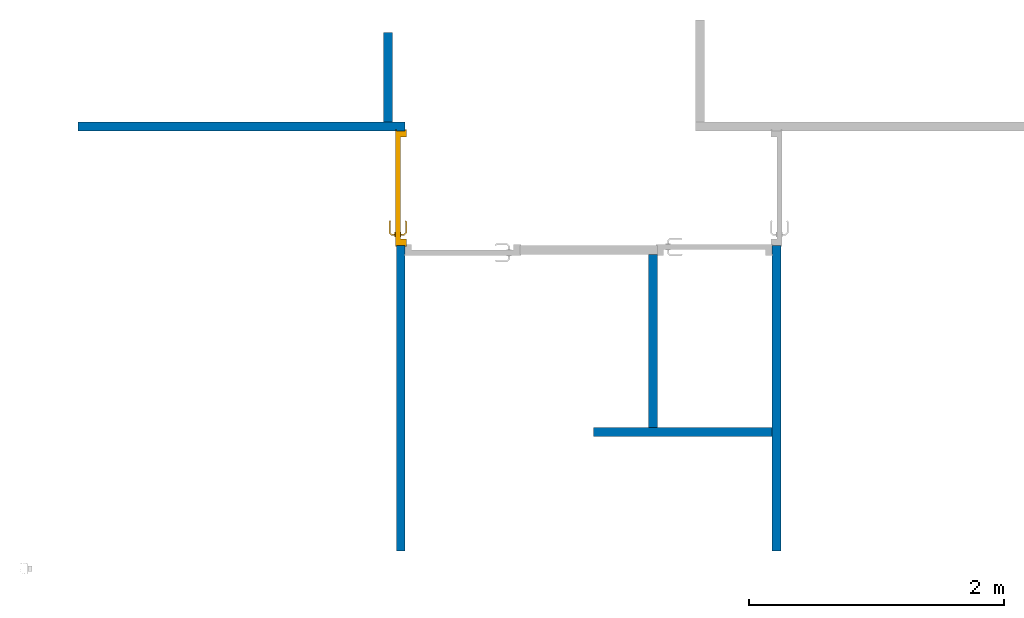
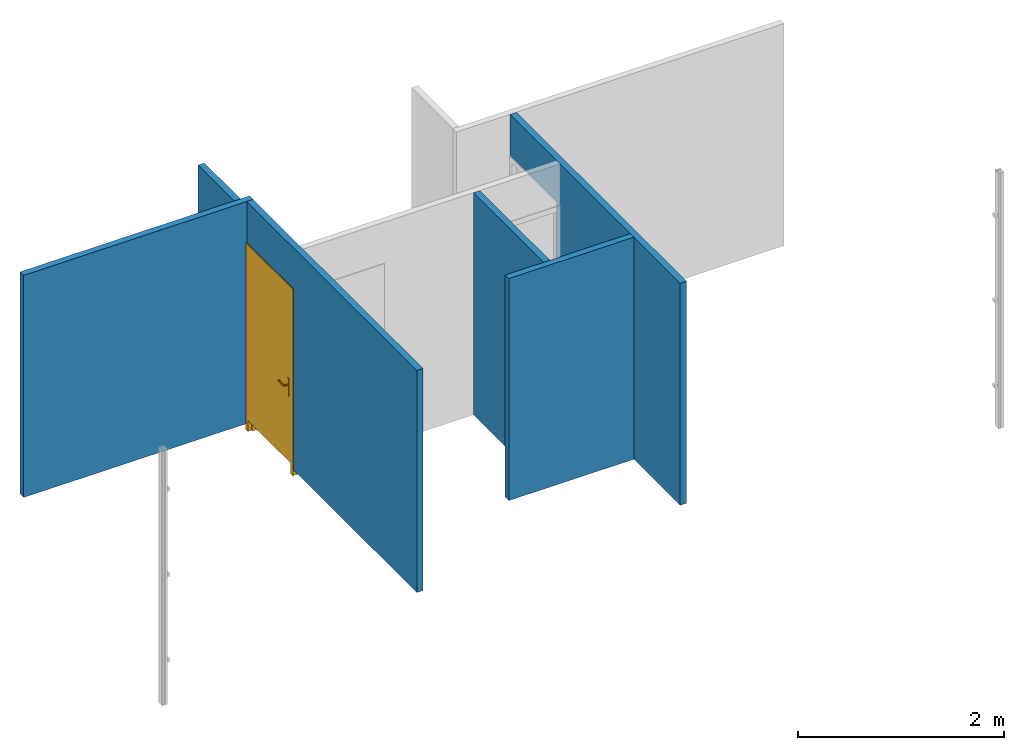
"""IFC2X3 building model written with IfcOpenShell, lengths in metres."""

from ifc_helpers import new_model, entity, si_unit, converted_unit, derived_unit, direction, frame, frame_2d, origin, place, context, subcontext, project, spatial, rectangle, extrude, faceted_brep, source, transform, mapped, material, material_list, layer, layer_set, layer_usage, type_object, type_shapes, element, fill, save


model = new_model("IFC2X3")

# Units and contexts
model_context = context("Model", 3, precision=1e-05, world=origin(), true_north=direction((6.123031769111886e-17, 1.0)))
body_context = subcontext(model_context, "Body", "Model", "MODEL_VIEW")
ifc_project = project(units=[si_unit("LENGTHUNIT", "METRE"), si_unit("AREAUNIT", "SQUARE_METRE"), si_unit("VOLUMEUNIT", "CUBIC_METRE"), converted_unit("PLANEANGLEUNIT", "DEGREE", entity("IfcRatioMeasure", 0.017453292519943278), si_unit("PLANEANGLEUNIT", "RADIAN"), dimensions=[0, 0, 0, 0, 0, 0, 0]), si_unit("MASSUNIT", "GRAM", prefix="KILO"), derived_unit("MASSDENSITYUNIT", [(si_unit("MASSUNIT", "GRAM", prefix="KILO"), 1), (si_unit("LENGTHUNIT", "METRE"), -3)]), derived_unit("IONCONCENTRATIONUNIT", [(si_unit("MASSUNIT", "GRAM", prefix="KILO"), 1), (si_unit("LENGTHUNIT", "METRE"), -3)]), derived_unit("MOMENTOFINERTIAUNIT", [(si_unit("LENGTHUNIT", "METRE"), 4)]), si_unit("TIMEUNIT", "SECOND"), si_unit("FREQUENCYUNIT", "HERTZ"), si_unit("THERMODYNAMICTEMPERATUREUNIT", "DEGREE_CELSIUS"), derived_unit("THERMALTRANSMITTANCEUNIT", [(si_unit("MASSUNIT", "GRAM", prefix="KILO"), 1), (si_unit("THERMODYNAMICTEMPERATUREUNIT", "KELVIN"), -1), (si_unit("TIMEUNIT", "SECOND"), -3)]), derived_unit("THERMALCONDUCTANCEUNIT", [(si_unit("MASSUNIT", "GRAM", prefix="KILO"), 1), (si_unit("THERMODYNAMICTEMPERATUREUNIT", "KELVIN"), -1), (si_unit("TIMEUNIT", "SECOND"), -3), (si_unit("LENGTHUNIT", "METRE"), 1)]), derived_unit("VOLUMETRICFLOWRATEUNIT", [(si_unit("LENGTHUNIT", "METRE"), 3), (si_unit("TIMEUNIT", "SECOND"), -1)]), derived_unit("MASSFLOWRATEUNIT", [(si_unit("MASSUNIT", "GRAM", prefix="KILO"), 1), (si_unit("TIMEUNIT", "SECOND"), -1)]), derived_unit("ROTATIONALFREQUENCYUNIT", [(si_unit("TIMEUNIT", "SECOND"), -1)]), si_unit("ELECTRICCURRENTUNIT", "AMPERE"), si_unit("ELECTRICVOLTAGEUNIT", "VOLT"), si_unit("POWERUNIT", "WATT"), si_unit("FORCEUNIT", "NEWTON", prefix="KILO"), si_unit("ILLUMINANCEUNIT", "LUX"), si_unit("LUMINOUSFLUXUNIT", "LUMEN"), si_unit("LUMINOUSINTENSITYUNIT", "CANDELA"), derived_unit("USERDEFINED", [(si_unit("MASSUNIT", "GRAM", prefix="KILO"), -1), (si_unit("LENGTHUNIT", "METRE"), -2), (si_unit("TIMEUNIT", "SECOND"), 3), (si_unit("LUMINOUSFLUXUNIT", "LUMEN"), 1)]), derived_unit("USERDEFINED", [(si_unit("MASSUNIT", "GRAM", prefix="KILO"), 1), (si_unit("TIMEUNIT", "SECOND"), -3), (si_unit("LENGTHUNIT", "METRE"), 3), (si_unit("ELECTRICCURRENTUNIT", "AMPERE"), -2)]), derived_unit("SOUNDPOWERUNIT", [(si_unit("MASSUNIT", "GRAM", prefix="KILO"), 1), (si_unit("TIMEUNIT", "SECOND"), -3), (si_unit("LENGTHUNIT", "METRE"), 2)]), derived_unit("SOUNDPRESSUREUNIT", [(si_unit("MASSUNIT", "GRAM", prefix="KILO"), 1), (si_unit("LENGTHUNIT", "METRE"), -1), (si_unit("TIMEUNIT", "SECOND"), -2)]), derived_unit("LINEARVELOCITYUNIT", [(si_unit("LENGTHUNIT", "METRE"), 1), (si_unit("TIMEUNIT", "SECOND"), -1)]), si_unit("PRESSUREUNIT", "PASCAL"), derived_unit("USERDEFINED", [(si_unit("MASSUNIT", "GRAM", prefix="KILO"), 1), (si_unit("LENGTHUNIT", "METRE"), -2), (si_unit("TIMEUNIT", "SECOND"), -2)]), derived_unit("LINEARFORCEUNIT", [(si_unit("MASSUNIT", "GRAM", prefix="KILO"), 1), (si_unit("TIMEUNIT", "SECOND"), -2)]), derived_unit("PLANARFORCEUNIT", [(si_unit("MASSUNIT", "GRAM", prefix="KILO"), 1), (si_unit("LENGTHUNIT", "METRE"), -1), (si_unit("TIMEUNIT", "SECOND"), -2)]), derived_unit("SPECIFICHEATCAPACITYUNIT", [(si_unit("THERMODYNAMICTEMPERATUREUNIT", "KELVIN"), -1), (si_unit("LENGTHUNIT", "METRE"), 2), (si_unit("TIMEUNIT", "SECOND"), -2)]), derived_unit("HEATINGVALUEUNIT", [(si_unit("LENGTHUNIT", "METRE"), 2), (si_unit("TIMEUNIT", "SECOND"), -2)]), derived_unit("VAPORPERMEABILITYUNIT", [(si_unit("LENGTHUNIT", "METRE"), -1), (si_unit("TIMEUNIT", "SECOND"), 1)]), derived_unit("DYNAMICVISCOSITYUNIT", [(si_unit("MASSUNIT", "GRAM", prefix="KILO"), 1), (si_unit("TIMEUNIT", "SECOND"), -1), (si_unit("LENGTHUNIT", "METRE"), -1)]), derived_unit("THERMALEXPANSIONCOEFFICIENTUNIT", [(si_unit("THERMODYNAMICTEMPERATUREUNIT", "KELVIN"), -1)]), derived_unit("MODULUSOFELASTICITYUNIT", [(si_unit("MASSUNIT", "GRAM", prefix="KILO"), 1), (si_unit("LENGTHUNIT", "METRE"), -1), (si_unit("TIMEUNIT", "SECOND"), -2)]), derived_unit("ISOTHERMALMOISTURECAPACITYUNIT", [(si_unit("LENGTHUNIT", "METRE"), 3), (si_unit("MASSUNIT", "GRAM", prefix="KILO"), -1)]), derived_unit("MOISTUREDIFFUSIVITYUNIT", [(si_unit("TIMEUNIT", "SECOND"), -1), (si_unit("LENGTHUNIT", "METRE"), 2)])], contexts=[model_context])

# Site, building, storey
site_placement = place(None, frame((1.2553507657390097, -0.6266432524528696, -1.0397761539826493), z_axis=(0.0, 0.0, 1.0), x_axis=(-1.0, 0.0, 0.0)))
site = spatial("IfcSite", under=ifc_project, at=site_placement, Name="Default", CompositionType="ELEMENT")
building_placement = place(site_placement, origin())
building = spatial("IfcBuilding", under=site, at=building_placement, Name="MAISON D'HABITATION", CompositionType="ELEMENT")
storey_1_placement = place(building_placement, frame((0.0, 0.0, 0.9097761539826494)))
storey_1 = spatial("IfcBuildingStorey", under=building, at=storey_1_placement, Name="Niveau Dalle ↑", CompositionType="ELEMENT", Elevation=0.9097761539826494)

# Wall, opening
ifc_material_1 = material(Name="Peinture")
ifc_layer_1 = layer(ifc_material_1, 0.007)
ifc_material_2 = material(Name="Plaque de mur de gypse")
ifc_layer_2 = layer(ifc_material_2, 0.013)
ifc_material_3 = material(Name="Isolation")
ifc_layer_3 = layer(ifc_material_3, 0.03)
ifc_layer_4 = layer(ifc_material_2, 0.013)
ifc_layer_5 = layer(ifc_material_1, 0.007)
ifc_layer_set = layer_set([ifc_layer_1, ifc_layer_2, ifc_layer_3, ifc_layer_4, ifc_layer_5], Name="Mur de base:mur interieur 7 cm")
ifc_layer_usage = layer_usage(ifc_layer_set, "AXIS2", "NEGATIVE", 0.034999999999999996)
wall_type = type_object("IfcWallType", Name="Mur de base:mur interieur 7 cm", PredefinedType="STANDARD", material=ifc_layer_set)
wall_1_placement = place(storey_1_placement, frame((3.98013300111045, -0.3388169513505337, 0.0), z_axis=(0.0, 0.0, 1.0), x_axis=(-1.0, 0.0, 0.0)))
wall_1 = element("IfcWallStandardCase", 1, at=wall_1_placement, inside=storey_1, type_object=wall_type, material=ifc_layer_usage, Name="Mur de base:mur interieur 7 cm", ObjectType="Mur de base:mur interieur 7 cm", context=body_context, shape_type="SweptSolid", body=[
    extrude(rectangle(XDim=2.5700000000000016, YDim=0.07000000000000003, at=frame_2d((1.2850000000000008, 4.5102810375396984e-17), x_axis=(-1.0, 0.0))), origin(), (0.0, 0.0, 1.0), 2.6299999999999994),
])
opening_1_placement = place(wall_1_placement, origin())
element("IfcOpeningElement", 2, at=opening_1_placement, cuts=wall_1, Name="Mur de base:mur interieur 7 cm", ObjectType="Opening", context=body_context, shape_type="SweptSolid", body=[
    extrude(rectangle(XDim=2.224999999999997, YDim=0.07000000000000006, at=frame_2d((-1.3530843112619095e-16, 3.3306690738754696e-16), x_axis=(0.0, 1.0))), frame((2.5349999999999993, -0.9349999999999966, 1.0224999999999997), z_axis=(0.0, 1.0, 0.0), x_axis=(-1.0, 0.0, 0.0)), (0.0, 0.0, 1.0), 0.8999999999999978),
])

# Wall, openings
wall_2_placement = place(storey_1_placement, frame((1.4451330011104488, -0.30381695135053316, 0.0), z_axis=(0.0, 0.0, 1.0), x_axis=(0.0, 1.0, 0.0)))
wall_2 = element("IfcWallStandardCase", 3, at=wall_2_placement, inside=storey_1, type_object=wall_type, material=ifc_layer_usage, Name="Mur de base:mur interieur 7 cm", ObjectType="Mur de base:mur interieur 7 cm", context=body_context, shape_type="SweptSolid", body=[
    extrude(rectangle(XDim=3.3, YDim=0.06999999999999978, at=frame_2d((1.65, 1.2836953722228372e-16), x_axis=(-1.0, 0.0))), origin(), (0.0, 0.0, 1.0), 2.6299999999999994),
])
opening_2_placement = place(wall_2_placement, origin())
element("IfcOpeningElement", 4, at=opening_2_placement, cuts=wall_2, Name="Mur de base:mur interieur 7 cm", ObjectType="Opening", context=body_context, shape_type="SweptSolid", body=[
    extrude(rectangle(XDim=2.224999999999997, YDim=0.06999999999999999, at=frame_2d((3.469446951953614e-17, 0.0), x_axis=(0.0, 1.0))), frame((0.935000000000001, 0.03499999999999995, 1.0225000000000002), z_axis=(0.0, 1.0, 0.0), x_axis=(1.0, 0.0, 0.0)), (0.0, 0.0, 1.0), 0.8999999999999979),
])
opening_3_placement = place(wall_2_placement, frame((0.8999999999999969, 0.03499999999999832, -0.08999999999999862)))
opening_3 = element("IfcOpeningElement", 5, at=opening_3_placement, cuts=wall_2, Name="porte intérieur Simple reservation 13 cm:80 x 204:1", ObjectType="Opening", context=body_context, shape_type="SweptSolid", body=[
    extrude(rectangle(XDim=2.224999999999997, YDim=0.8999999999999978, at=frame_2d((1.1124999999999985, 0.449999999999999), x_axis=(1.0, 0.0))), frame((0.0, 0.0, 0.0), z_axis=(0.0, -1.0, 0.0), x_axis=(0.0, 0.0, 1.0)), (0.0, 0.0, 1.0), 0.06999999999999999),
])

# Storey
storey_2_placement = place(building_placement, frame((0.0, 0.0, 1.0397761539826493)))
storey_2 = spatial("IfcBuildingStorey", under=building, at=storey_2_placement, Name="site", CompositionType="ELEMENT", Elevation=1.0397761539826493)

# Door
ifc_material_4 = material(Name="Poignée Porte")
ifc_material_5 = material(Name="Dormants Portes")
ifc_material_6 = material(Name="Panneaux Portes")
ifc_material_list = material_list([ifc_material_4, ifc_material_5, ifc_material_6])
door_style = type_object("IfcDoorStyle", Name="porte intérieur Simple reservation 13 cm:80 x 204", ConstructionType="NOTDEFINED", OperationType="NOTDEFINED", ParameterTakesPrecedence=False, Sizeable=False, material=ifc_material_list)
shared_shape = source(origin(), body_context, "Body", "Brep", [
    faceted_brep([(0.8129747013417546, 0.03700000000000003, 1.0422195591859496), (0.8170252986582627, 0.03700000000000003, 1.0422195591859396), (0.8210000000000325, 0.03700000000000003, 1.0429999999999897), (0.8210000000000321, 0.03700000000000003, 1.0569999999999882), (0.8170252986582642, 0.03700000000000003, 1.0577804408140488), (0.812974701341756, 0.03700000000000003, 1.0577804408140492), (0.8089999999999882, 0.03700000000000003, 1.0569999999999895), (0.8089999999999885, 0.03700000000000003, 1.0430000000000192), (0.8089999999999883, 0.059485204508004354, 1.0569999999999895), (0.8089999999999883, 0.05948520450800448, 1.0430000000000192), (0.8129747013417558, 0.061131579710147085, 1.0577804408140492), (0.8170252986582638, 0.06280939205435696, 1.0577804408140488), (0.80083890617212, 0.07899578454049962, 1.0577804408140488), (0.7991610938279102, 0.0749451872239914, 1.0577804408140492), (0.7157931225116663, 0.07494518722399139, 1.0577804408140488), (0.7141153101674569, 0.07899578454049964, 1.0577804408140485), (0.7064510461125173, 0.07133152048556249, 1.0577804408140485), (0.7093152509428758, 0.06846731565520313, 1.0577804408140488), (0.8210000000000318, 0.0644557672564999, 1.0569999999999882), (0.8210000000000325, 0.06445576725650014, 1.0429999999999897), (0.8170252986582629, 0.06280939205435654, 1.0422195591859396), (0.8129747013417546, 0.06113157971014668, 1.0422195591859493), (0.7991610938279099, 0.07494518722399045, 1.0422195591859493), (0.8008389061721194, 0.0789957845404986, 1.0422195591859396), (0.7141153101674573, 0.07899578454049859, 1.0422195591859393), (0.7157931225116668, 0.07494518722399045, 1.042219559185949), (0.7093152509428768, 0.06846731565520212, 1.0422195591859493), (0.7064510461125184, 0.07133152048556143, 1.0422195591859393), (0.7975147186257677, 0.070970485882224, 1.0430000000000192), (0.7975147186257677, 0.07097048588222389, 1.0569999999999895), (0.8024852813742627, 0.0829704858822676, 1.0569999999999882), (0.8024852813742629, 0.0829704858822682, 1.0429999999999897), (0.7574771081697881, 0.07097048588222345, 1.056999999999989), (0.7174394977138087, 0.07097048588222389, 1.056999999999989), (0.7174394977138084, 0.07097048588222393, 1.0430000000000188), (0.7574770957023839, 0.07097048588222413, 1.043000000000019), (0.7574771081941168, 0.07712492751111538, 1.0578781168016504), (0.7523994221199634, 0.08297048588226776, 1.0569999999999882), (0.7124689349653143, 0.0829704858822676, 1.056999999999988), (0.7625547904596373, 0.0829704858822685, 1.0429999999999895), (0.712468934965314, 0.0829704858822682, 1.0429999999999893), (0.7574771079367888, 0.07712492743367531, 1.0421218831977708), (0.703640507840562, 0.07414205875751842, 1.0569999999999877), (0.7036405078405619, 0.07414205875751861, 1.0429999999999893), (0.7121257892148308, 0.06565677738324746, 1.0430000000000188), (0.712125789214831, 0.06565677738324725, 1.056999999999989)], [[[0, 1, 2, 3, 4, 5, 6, 7]], [[8, 9, 7, 6]], [[5, 10, 8, 6]], [[5, 4, 11, 12, 13, 10]], [[14, 15, 16, 17]], [[3, 18, 11, 4]], [[18, 3, 2, 19]], [[2, 1, 20, 19]], [[1, 0, 21, 22, 23, 20]], [[24, 25, 26, 27]], [[0, 7, 9, 21]], [[28, 9, 8, 29]], [[8, 10, 13, 29]], [[18, 30, 12, 11]], [[31, 30, 18, 19]], [[19, 20, 23, 31]], [[21, 9, 28, 22]], [[28, 29, 32, 33, 34, 35]], [[36, 32, 13]], [[37, 38, 15]], [[37, 12, 30]], [[36, 12, 37]], [[14, 32, 36]], [[36, 15, 14]], [[29, 13, 32]], [[32, 14, 33]], [[12, 36, 13]], [[15, 36, 37]], [[30, 31, 39, 40, 38, 37]], [[23, 41, 39]], [[24, 39, 41]], [[39, 31, 23]], [[39, 24, 40]], [[22, 35, 41]], [[41, 23, 22]], [[41, 35, 25]], [[35, 22, 28]], [[34, 25, 35]], [[24, 41, 25]], [[17, 16, 42, 43, 27, 26, 44, 45]], [[44, 34, 33, 45]], [[33, 14, 17, 45]], [[15, 38, 42, 16]], [[43, 42, 38, 40]], [[24, 27, 43, 40]], [[34, 44, 26, 25]]]),
    faceted_brep([(0.8129747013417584, -0.012999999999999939, 1.057780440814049), (0.8170252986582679, -0.012999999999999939, 1.0577804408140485), (0.8210000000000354, -0.012999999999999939, 1.0569999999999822), (0.8210000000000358, -0.012999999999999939, 1.0429999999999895), (0.8170252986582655, -0.012999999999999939, 1.0422195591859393), (0.8129747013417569, -0.012999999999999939, 1.0422195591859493), (0.8089999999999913, -0.012999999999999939, 1.0430000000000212), (0.8089999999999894, -0.012999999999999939, 1.0569999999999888), (0.8170252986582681, -0.03900457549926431, 1.0577804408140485), (0.821000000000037, -0.040650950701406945, 1.0569999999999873), (0.8129747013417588, -0.037326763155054, 1.057780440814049), (0.7992986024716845, -0.05100286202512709, 1.057780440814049), (0.8009764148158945, -0.05505345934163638, 1.0577804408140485), (0.7141424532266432, -0.05505345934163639, 1.0577804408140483), (0.7158202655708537, -0.05100286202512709, 1.0577804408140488), (0.7093423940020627, -0.04452499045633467, 1.0577804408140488), (0.7064781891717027, -0.04738919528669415, 1.0577804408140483), (0.8089999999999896, -0.03568038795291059, 1.0569999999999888), (0.8089999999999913, -0.035680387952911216, 1.0430000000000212), (0.8129747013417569, -0.03732676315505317, 1.0422195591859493), (0.8170252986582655, -0.0390045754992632, 1.0422195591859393), (0.8009764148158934, -0.05505345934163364, 1.0422195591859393), (0.7992986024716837, -0.051002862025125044, 1.0422195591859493), (0.7158202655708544, -0.051002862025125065, 1.042219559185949), (0.7141424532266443, -0.05505345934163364, 1.0422195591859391), (0.7064781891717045, -0.047389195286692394, 1.0422195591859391), (0.7093423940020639, -0.0445249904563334, 1.042219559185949), (0.8210000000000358, -0.0406509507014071, 1.0429999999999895), (0.8026227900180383, -0.059028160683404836, 1.0569999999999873), (0.7976522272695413, -0.04702816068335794, 1.0569999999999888), (0.797652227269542, -0.047028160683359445, 1.0430000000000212), (0.8026227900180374, -0.059028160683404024, 1.0429999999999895), (0.7575594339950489, -0.05318280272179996, 1.0578781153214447), (0.76269230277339, -0.059028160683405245, 1.0569999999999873), (0.7124960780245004, -0.059028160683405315, 1.056999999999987), (0.7575594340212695, -0.04702816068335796, 1.0569999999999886), (0.717466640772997, -0.04702816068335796, 1.0569999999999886), (0.7575594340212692, -0.04702816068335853, 1.0430000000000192), (0.7174666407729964, -0.047028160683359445, 1.043000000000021), (0.7575594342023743, -0.05318280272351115, 1.0421218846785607), (0.7524265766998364, -0.05902816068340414, 1.0429999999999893), (0.7124960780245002, -0.059028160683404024, 1.0429999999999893), (0.7121529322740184, -0.04171445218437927, 1.043000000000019), (0.7036676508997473, -0.05019973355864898, 1.0429999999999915), (0.7036676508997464, -0.05019973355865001, 1.0569999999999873), (0.7121529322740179, -0.04171445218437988, 1.0569999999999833)], [[[0, 1, 2, 3, 4, 5, 6, 7]], [[2, 1, 8, 9]], [[1, 0, 10, 11, 12, 8]], [[13, 14, 15, 16]], [[0, 7, 17, 10]], [[18, 17, 7, 6]], [[5, 19, 18, 6]], [[5, 4, 20, 21, 22, 19]], [[23, 24, 25, 26]], [[3, 27, 20, 4]], [[9, 27, 3, 2]], [[9, 8, 12, 28]], [[10, 17, 29, 11]], [[30, 29, 17, 18]], [[18, 19, 22, 30]], [[20, 27, 31, 21]], [[28, 31, 27, 9]], [[12, 32, 33]], [[13, 33, 32]], [[33, 28, 12]], [[33, 13, 34]], [[11, 35, 32]], [[32, 12, 11]], [[32, 35, 14]], [[35, 11, 29]], [[36, 14, 35]], [[13, 32, 14]], [[30, 37, 38, 36, 35, 29]], [[39, 37, 22]], [[40, 41, 24]], [[40, 21, 31]], [[39, 21, 40]], [[23, 37, 39]], [[39, 24, 23]], [[30, 22, 37]], [[37, 23, 38]], [[21, 39, 22]], [[24, 39, 40]], [[31, 28, 33, 34, 41, 40]], [[42, 26, 25, 43, 44, 16, 15, 45]], [[13, 16, 44, 34]], [[36, 45, 15, 14]], [[42, 45, 36, 38]], [[38, 23, 26, 42]], [[24, 41, 43, 25]], [[44, 43, 41, 34]]]),
    faceted_brep([(0.835000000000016, 0.03199999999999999, 0.9200000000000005), (0.8350000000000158, 0.03199999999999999, 1.1299999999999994), (0.8253527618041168, 0.03199999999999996, 1.1339960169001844), (0.8150000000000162, 0.031999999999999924, 1.1353589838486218), (0.8046472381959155, 0.03199999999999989, 1.1339960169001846), (0.7950000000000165, 0.031999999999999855, 1.1299999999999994), (0.7950000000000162, 0.031999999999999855, 0.9199999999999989), (0.8046472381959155, 0.03199999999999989, 0.9160039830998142), (0.8150000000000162, 0.031999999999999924, 0.9146410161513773), (0.8253527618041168, 0.03199999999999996, 0.9160039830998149), (0.8150000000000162, 0.03699999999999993, 1.1353589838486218), (0.8253527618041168, 0.03699999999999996, 1.1339960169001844), (0.8350000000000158, 0.03699999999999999, 1.1299999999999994), (0.8350000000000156, 0.03699999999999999, 0.9200000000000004), (0.8253527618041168, 0.03699999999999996, 0.9160039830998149), (0.8150000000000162, 0.03699999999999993, 0.9146410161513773), (0.8046472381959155, 0.036999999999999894, 0.9160039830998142), (0.7950000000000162, 0.03699999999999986, 0.9199999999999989), (0.7950000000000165, 0.03699999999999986, 1.1299999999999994), (0.8046472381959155, 0.036999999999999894, 1.1339960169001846)], [[[0, 1, 2, 3, 4, 5, 6, 7, 8, 9]], [[10, 11, 12, 13, 14, 15, 16, 17, 18, 19]], [[4, 19, 18, 5]], [[3, 10, 19, 4]], [[2, 11, 10, 3]], [[2, 1, 12, 11]], [[12, 1, 0, 13]], [[9, 14, 13, 0]], [[8, 15, 14, 9]], [[7, 16, 15, 8]], [[7, 6, 17, 16]], [[17, 6, 5, 18]]]),
    faceted_brep([(0.8150000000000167, -0.013000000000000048, 0.9146410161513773), (0.8253527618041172, -0.013000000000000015, 0.916003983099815), (0.8350000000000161, -0.01299999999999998, 0.9200000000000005), (0.835000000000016, -0.01299999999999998, 1.1299999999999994), (0.8253527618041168, -0.013000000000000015, 1.1339960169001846), (0.8150000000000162, -0.013000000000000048, 1.1353589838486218), (0.8046472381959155, -0.013000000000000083, 1.1339960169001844), (0.7950000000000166, -0.013000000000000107, 1.1299999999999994), (0.7950000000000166, -0.013000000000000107, 0.9199999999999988), (0.8046472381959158, -0.013000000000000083, 0.916003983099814), (0.835000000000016, -0.007999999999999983, 1.1299999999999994), (0.8350000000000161, -0.007999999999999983, 0.9200000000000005), (0.8253527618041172, -0.008000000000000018, 0.916003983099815), (0.8150000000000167, -0.00800000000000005, 0.9146410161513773), (0.8046472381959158, -0.008000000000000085, 0.916003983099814), (0.7950000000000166, -0.00800000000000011, 0.9199999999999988), (0.7950000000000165, -0.00800000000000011, 1.1299999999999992), (0.8046472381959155, -0.008000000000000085, 1.1339960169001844), (0.8150000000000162, -0.00800000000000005, 1.1353589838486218), (0.8253527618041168, -0.008000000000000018, 1.1339960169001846)], [[[0, 1, 2, 3, 4, 5, 6, 7, 8, 9]], [[10, 11, 12, 13, 14, 15, 16, 17, 18, 19]], [[1, 12, 11, 2]], [[0, 13, 12, 1]], [[9, 14, 13, 0]], [[9, 8, 15, 14]], [[15, 8, 7, 16]], [[6, 17, 16, 7]], [[5, 18, 17, 6]], [[4, 19, 18, 5]], [[4, 3, 10, 19]], [[10, 3, 2, 11]]]),
    faceted_brep([(0.9000000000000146, 0.0, 0.01999999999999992), (0.9100000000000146, 0.0, 0.01999999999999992), (0.9100000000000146, -0.007999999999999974, 0.01999999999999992), (0.8650000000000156, -0.007999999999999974, 0.01999999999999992), (0.8650000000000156, 0.03200000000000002, 0.01999999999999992), (0.8500000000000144, 0.03200000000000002, 0.01999999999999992), (0.8500000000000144, 0.07799999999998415, 0.01999999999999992), (0.9100000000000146, 0.07799999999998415, 0.01999999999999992), (0.9100000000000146, 0.06999999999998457, 0.01999999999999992), (0.9000000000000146, 0.06999999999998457, 0.01999999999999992), (0.9000000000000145, 0.06999999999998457, 2.224999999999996), (0.9000000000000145, 0.0, 2.224999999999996), (0.9100000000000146, 0.06999999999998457, 2.2349999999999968), (-0.009999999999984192, 0.06999999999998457, 2.2349999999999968), (-0.009999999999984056, 0.06999999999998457, 0.01999999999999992), (0.0, 0.06999999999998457, 0.01999999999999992), (0.0, 0.06999999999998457, 2.224999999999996), (0.9100000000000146, 0.07799999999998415, 2.2349999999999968), (0.8500000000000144, 0.07799999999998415, 2.1749999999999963), (0.050000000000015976, 0.07799999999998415, 2.1749999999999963), (0.050000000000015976, 0.07799999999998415, 0.01999999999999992), (-0.009999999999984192, 0.07799999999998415, 0.01999999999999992), (-0.009999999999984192, 0.07799999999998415, 2.2349999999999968), (0.8500000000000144, 0.03200000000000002, 2.1749999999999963), (0.8650000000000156, 0.03200000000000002, 2.1899999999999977), (0.03500000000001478, 0.03200000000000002, 2.1899999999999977), (0.03500000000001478, 0.03200000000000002, 0.01999999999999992), (0.050000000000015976, 0.03200000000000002, 0.01999999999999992), (0.050000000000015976, 0.03200000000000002, 2.1749999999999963), (0.8650000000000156, -0.007999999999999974, 2.1899999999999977), (0.9100000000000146, -0.007999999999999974, 2.2349999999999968), (-0.009999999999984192, -0.007999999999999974, 2.2349999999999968), (-0.009999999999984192, -0.007999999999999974, 0.01999999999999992), (0.03500000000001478, -0.007999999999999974, 0.01999999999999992), (0.03500000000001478, -0.007999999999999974, 2.1899999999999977), (0.9100000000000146, 0.0, 2.2349999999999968), (0.0, 0.0, 2.2249999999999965), (0.0, 0.0, 0.01999999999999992), (-0.009999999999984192, 0.0, 0.01999999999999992), (-0.009999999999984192, 0.0, 2.2349999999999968)], [[[0, 1, 2, 3, 4, 5, 6, 7, 8, 9]], [[9, 10, 11, 0]], [[8, 12, 13, 14, 15, 16, 10, 9]], [[7, 17, 12, 8]], [[6, 18, 19, 20, 21, 22, 17, 7]], [[5, 23, 18, 6]], [[4, 24, 25, 26, 27, 28, 23, 5]], [[3, 29, 24, 4]], [[2, 30, 31, 32, 33, 34, 29, 3]], [[1, 35, 30, 2]], [[0, 11, 36, 37, 38, 39, 35, 1]], [[16, 15, 37, 36]], [[37, 15, 14, 21, 20, 27, 26, 33, 32, 38]], [[22, 21, 14, 13]], [[28, 27, 20, 19]], [[34, 33, 26, 25]], [[39, 38, 32, 31]], [[10, 16, 36, 11]], [[17, 22, 13, 12]], [[23, 28, 19, 18]], [[29, 34, 25, 24]], [[35, 39, 31, 30]]]),
    faceted_brep([(0.03500000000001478, -0.007999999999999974, 2.1899999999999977), (0.03500000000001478, -0.007999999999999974, 0.14999999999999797), (0.8650000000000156, -0.007999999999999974, 0.14999999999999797), (0.8650000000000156, -0.007999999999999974, 2.1899999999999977), (0.03500000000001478, 0.03200000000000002, 2.1899999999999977), (0.8650000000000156, 0.03200000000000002, 2.1899999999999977), (0.8650000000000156, 0.03200000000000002, 0.14999999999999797), (0.03500000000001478, 0.03200000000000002, 0.14999999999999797)], [[[0, 1, 2, 3]], [[4, 5, 6, 7]], [[3, 5, 4, 0]], [[2, 6, 5, 3]], [[1, 7, 6, 2]], [[0, 4, 7, 1]]]),
])
type_shapes(door_style, [shared_shape])
door_placement = place(opening_3_placement, frame((-0.9000000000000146, -0.06999999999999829, 0.0)))
door = element("IfcDoor", 6, at=door_placement, inside=storey_2, type_object=door_style, material=ifc_material_list, Name="porte intérieur Simple reservation 13 cm:80 x 204", ObjectType="porte intérieur Simple reservation 13 cm:80 x 204", OverallHeight=2.224999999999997, OverallWidth=0.8999999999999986, context=body_context, shape_type="MappedRepresentation", body=[
    mapped(shared_shape, transform((0.0, 0.0, 0.0), scale=1.0)),
])

fill(opening_3, door)

# Wall, openings
wall_3_placement = place(storey_1_placement, frame((-1.504866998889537, -0.30381695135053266, 0.0), z_axis=(0.0, 0.0, 1.0), x_axis=(0.0, 1.0, 0.0)))
wall_3 = element("IfcWallStandardCase", 7, at=wall_3_placement, inside=storey_1, type_object=wall_type, material=ifc_layer_usage, Name="Mur de base:mur interieur 7 cm", ObjectType="Mur de base:mur interieur 7 cm", context=body_context, shape_type="SweptSolid", body=[
    extrude(rectangle(XDim=3.3000000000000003, YDim=0.06999999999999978, at=frame_2d((1.6500000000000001, 3.469446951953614e-18), x_axis=(-1.0, 0.0))), origin(), (0.0, 0.0, 1.0), 2.6299999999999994),
])
opening_4_placement = place(wall_3_placement, origin())
element("IfcOpeningElement", 8, at=opening_4_placement, cuts=wall_3, Name="Mur de base:mur interieur 7 cm", ObjectType="Opening", context=body_context, shape_type="SweptSolid", body=[
    extrude(rectangle(XDim=2.224999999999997, YDim=0.06999999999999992, at=frame_2d((-6.938893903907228e-17, 3.3306690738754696e-16), x_axis=(0.0, 1.0))), frame((0.9350000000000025, -0.9350000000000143, 1.0224999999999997), z_axis=(0.0, 1.0, 0.0), x_axis=(-1.0, 0.0, 0.0)), (0.0, 0.0, 1.0), 0.8999999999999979),
])
opening_5_placement = place(wall_3_placement, frame((0.0, -0.034999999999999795, -0.08999999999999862)))
element("IfcOpeningElement", 9, at=opening_5_placement, cuts=wall_3, Name="porte intérieur Simple reservation 13 cm:80 x 204:1", ObjectType="Opening", context=body_context, shape_type="SweptSolid", body=[
    extrude(rectangle(XDim=2.224999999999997, YDim=0.8999999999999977, at=frame_2d((1.1124999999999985, 0.4499999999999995), x_axis=(1.0, 0.0))), frame((0.0, 0.0, 0.0), z_axis=(0.0, 1.0, 0.0), x_axis=(0.0, 0.0, 1.0)), (0.0, 0.0, 1.0), 0.06999999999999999),
])

# Walls
wall_4_placement = place(storey_1_placement, frame((-0.5348669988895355, 0.6661830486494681, 0.0), z_axis=(0.0, 0.0, 1.0), x_axis=(0.0, 1.0, 0.0)))
element("IfcWallStandardCase", 10, at=wall_4_placement, inside=storey_1, type_object=wall_type, material=ifc_layer_usage, Name="Mur de base:mur interieur 7 cm", ObjectType="Mur de base:mur interieur 7 cm", context=body_context, shape_type="SweptSolid", body=[
    extrude(rectangle(XDim=1.3599999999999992, YDim=0.07000000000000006, at=frame_2d((0.6799999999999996, -3.469446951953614e-18), x_axis=(-1.0, 0.0))), origin(), (0.0, 0.0, 1.0), 2.6299999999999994),
])
wall_5_placement = place(storey_1_placement, frame((-0.06986699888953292, 2.061183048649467, 0.0), z_axis=(0.0, 0.0, 1.0), x_axis=(-1.0, 0.0, 0.0)))
element("IfcWallStandardCase", 11, at=wall_5_placement, inside=storey_1, type_object=wall_type, material=ifc_layer_usage, Name="Mur de base:mur interieur 7 cm", ObjectType="Mur de base:mur interieur 7 cm", context=body_context, shape_type="SweptSolid", body=[
    extrude(rectangle(XDim=1.3999999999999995, YDim=0.06999999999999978, at=frame_2d((0.6999999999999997, 5.204170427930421e-17), x_axis=(-1.0, 0.0))), origin(), (0.0, 0.0, 1.0), 2.6299999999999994),
])
wall_6_placement = place(storey_1_placement, frame((1.5451330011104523, -0.3738169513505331, 0.0), z_axis=(0.0, 0.0, 1.0), x_axis=(0.0, -1.0, 0.0)))
element("IfcWallStandardCase", 12, at=wall_6_placement, inside=storey_1, type_object=wall_type, material=ifc_layer_usage, Name="Mur de base:mur interieur 7 cm", ObjectType="Mur de base:mur interieur 7 cm", context=body_context, shape_type="SweptSolid", body=[
    extrude(rectangle(XDim=0.7000000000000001, YDim=0.06999999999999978, at=frame_2d((0.35000000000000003, 6.591949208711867e-17), x_axis=(-1.0, 0.0))), origin(), (0.0, 0.0, 1.0), 2.6299999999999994),
])

save(model, "model.ifc")
